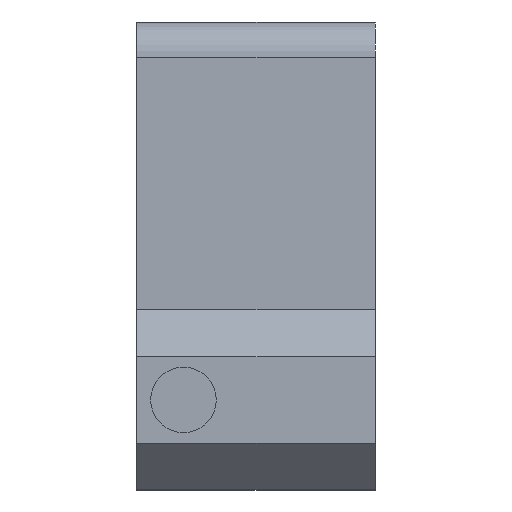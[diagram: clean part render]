
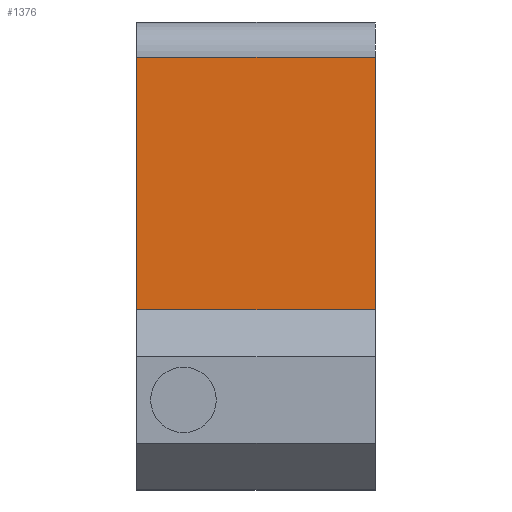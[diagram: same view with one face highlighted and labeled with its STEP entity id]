
A CAD part, left-side view. The second image highlights one B-rep face of the part: STEP entity #1376.
In plain terms, the highlighted planar face has unit normal (-1, 0, 0).
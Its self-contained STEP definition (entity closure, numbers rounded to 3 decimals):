
#2 = ORIENTED_EDGE ( 'NONE', *, *, #566, .T. ) ;
#23 = CARTESIAN_POINT ( 'NONE',  ( 0., 20.4, 17. ) ) ;
#58 = VECTOR ( 'NONE', #1711, 1000. ) ;
#74 = VERTEX_POINT ( 'NONE', #776 ) ;
#151 = CARTESIAN_POINT ( 'NONE',  ( 0., 20.4, -20. ) ) ;
#267 = VECTOR ( 'NONE', #291, 1000. ) ;
#291 = DIRECTION ( 'NONE',  ( 0., 0., 1. ) ) ;
#343 = VECTOR ( 'NONE', #1382, 1000. ) ;
#401 = DIRECTION ( 'NONE',  ( 0., 0., -1. ) ) ;
#413 = DIRECTION ( 'NONE',  ( 1., 0., 0. ) ) ;
#424 = CARTESIAN_POINT ( 'NONE',  ( 0., 20.4, -20. ) ) ;
#473 = EDGE_CURVE ( 'NONE', #74, #1354, #1194, .T. ) ;
#528 = CARTESIAN_POINT ( 'NONE',  ( 0., 20.4, -4.6 ) ) ;
#566 = EDGE_CURVE ( 'NONE', #1354, #1224, #1427, .T. ) ;
#570 = CARTESIAN_POINT ( 'NONE',  ( 0., 0., 17. ) ) ;
#638 = PLANE ( 'NONE',  #1294 ) ;
#732 = FACE_OUTER_BOUND ( 'NONE', #1704, .T. ) ;
#776 = CARTESIAN_POINT ( 'NONE',  ( 0., 0., -4.6 ) ) ;
#838 = VECTOR ( 'NONE', #1510, 1000. ) ;
#1085 = CARTESIAN_POINT ( 'NONE',  ( 0., -15.911, -4.6 ) ) ;
#1136 = ORIENTED_EDGE ( 'NONE', *, *, #473, .T. ) ;
#1148 = VERTEX_POINT ( 'NONE', #528 ) ;
#1150 = LINE ( 'NONE', #1085, #58 ) ;
#1170 = ORIENTED_EDGE ( 'NONE', *, *, #1746, .F. ) ;
#1194 = LINE ( 'NONE', #1595, #838 ) ;
#1199 = EDGE_CURVE ( 'NONE', #1148, #1224, #1714, .T. ) ;
#1224 = VERTEX_POINT ( 'NONE', #23 ) ;
#1294 = AXIS2_PLACEMENT_3D ( 'NONE', #424, #413, #401 ) ;
#1354 = VERTEX_POINT ( 'NONE', #570 ) ;
#1359 = CARTESIAN_POINT ( 'NONE',  ( 0., 20.4, 17. ) ) ;
#1376 = ADVANCED_FACE ( 'NONE', ( #732 ), #638, .F. ) ;
#1382 = DIRECTION ( 'NONE',  ( 0., 1., 0. ) ) ;
#1427 = LINE ( 'NONE', #1359, #343 ) ;
#1510 = DIRECTION ( 'NONE',  ( 0., 0., 1. ) ) ;
#1546 = ORIENTED_EDGE ( 'NONE', *, *, #1199, .F. ) ;
#1595 = CARTESIAN_POINT ( 'NONE',  ( 0., 0., -20. ) ) ;
#1704 = EDGE_LOOP ( 'NONE', ( #1136, #2, #1546, #1170 ) ) ;
#1711 = DIRECTION ( 'NONE',  ( 0., 1., 0. ) ) ;
#1714 = LINE ( 'NONE', #151, #267 ) ;
#1746 = EDGE_CURVE ( 'NONE', #74, #1148, #1150, .T. ) ;
